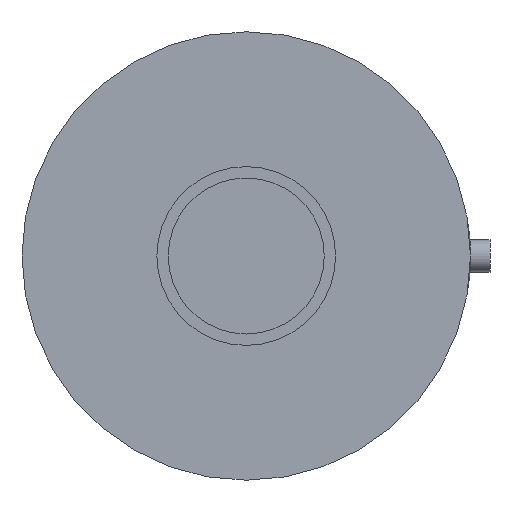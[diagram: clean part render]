
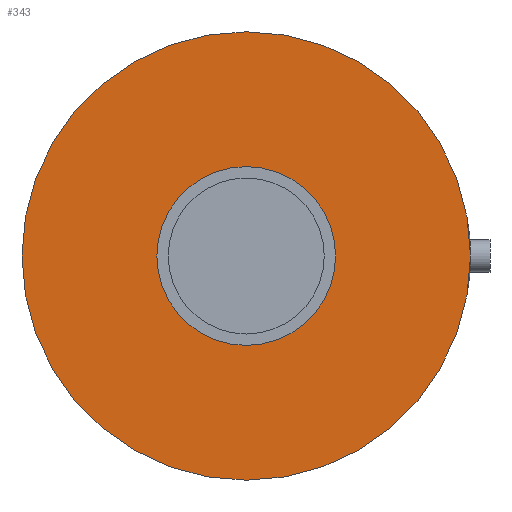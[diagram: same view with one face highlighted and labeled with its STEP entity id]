
A CAD part, front view. The second image highlights one B-rep face of the part: STEP entity #343.
In plain terms, the highlighted planar face has unit normal (0, -1, 0).
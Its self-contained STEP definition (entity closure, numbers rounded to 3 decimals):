
#21=FACE_BOUND('',#94,.T.);
#67=FACE_OUTER_BOUND('',#93,.T.);
#93=EDGE_LOOP('',(#280,#281));
#94=EDGE_LOOP('',(#282,#283));
#124=CIRCLE('',#405,34.5);
#125=CIRCLE('',#406,34.5);
#126=CIRCLE('',#408,13.75);
#127=CIRCLE('',#409,13.75);
#160=VERTEX_POINT('',#647);
#161=VERTEX_POINT('',#648);
#162=VERTEX_POINT('',#653);
#163=VERTEX_POINT('',#654);
#202=EDGE_CURVE('',#160,#161,#124,.T.);
#203=EDGE_CURVE('',#161,#160,#125,.T.);
#205=EDGE_CURVE('',#162,#163,#126,.T.);
#206=EDGE_CURVE('',#163,#162,#127,.T.);
#280=ORIENTED_EDGE('',*,*,#202,.T.);
#281=ORIENTED_EDGE('',*,*,#203,.T.);
#282=ORIENTED_EDGE('',*,*,#205,.F.);
#283=ORIENTED_EDGE('',*,*,#206,.F.);
#316=PLANE('',#407);
#343=ADVANCED_FACE('',(#67,#21),#316,.T.);
#405=AXIS2_PLACEMENT_3D('',#649,#502,#503);
#406=AXIS2_PLACEMENT_3D('',#650,#504,#505);
#407=AXIS2_PLACEMENT_3D('',#652,#507,#508);
#408=AXIS2_PLACEMENT_3D('',#655,#509,#510);
#409=AXIS2_PLACEMENT_3D('',#656,#511,#512);
#502=DIRECTION('center_axis',(0.,-1.,0.));
#503=DIRECTION('ref_axis',(1.,0.,0.));
#504=DIRECTION('center_axis',(0.,-1.,0.));
#505=DIRECTION('ref_axis',(1.,0.,0.));
#507=DIRECTION('center_axis',(0.,-1.,0.));
#508=DIRECTION('ref_axis',(0.,0.,-1.));
#509=DIRECTION('center_axis',(0.,-1.,0.));
#510=DIRECTION('ref_axis',(1.,0.,0.));
#511=DIRECTION('center_axis',(0.,-1.,0.));
#512=DIRECTION('ref_axis',(1.,0.,0.));
#647=CARTESIAN_POINT('',(34.5,-3.,0.));
#648=CARTESIAN_POINT('',(-34.5,-3.,0.));
#649=CARTESIAN_POINT('Origin',(0.,-3.,0.));
#650=CARTESIAN_POINT('Origin',(0.,-3.,0.));
#652=CARTESIAN_POINT('Origin',(13.75,-3.,0.));
#653=CARTESIAN_POINT('',(13.75,-3.,0.));
#654=CARTESIAN_POINT('',(-13.75,-3.,0.));
#655=CARTESIAN_POINT('Origin',(0.,-3.,0.));
#656=CARTESIAN_POINT('Origin',(0.,-3.,0.));
